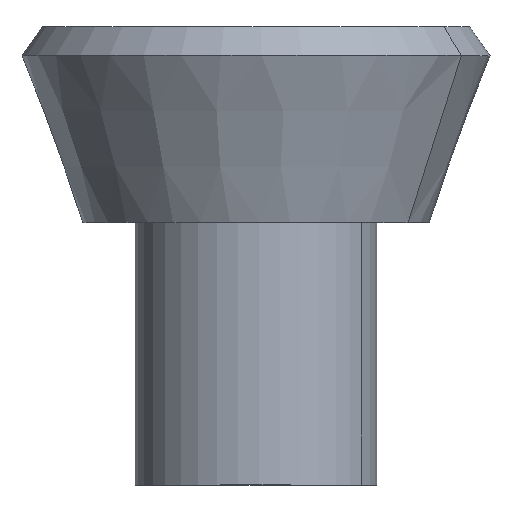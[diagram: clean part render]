
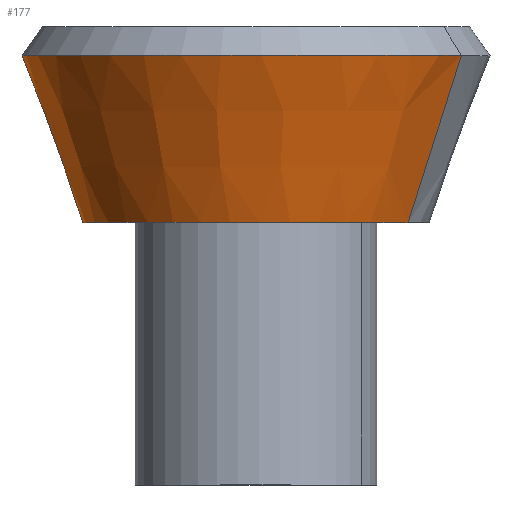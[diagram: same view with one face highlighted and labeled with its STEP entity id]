
A CAD part, top view. The second image highlights one B-rep face of the part: STEP entity #177.
In plain terms, the highlighted conical face has half-angle 20 degrees and reference radius 99 mm.
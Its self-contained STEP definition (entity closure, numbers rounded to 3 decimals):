
#114=CARTESIAN_POINT('Axis2P3D Location',(0.,0.,0.)) ;
#118=CARTESIAN_POINT('Vertex',(86.881,0.,47.463)) ;
#120=CARTESIAN_POINT('Vertex',(-86.881,0.,-47.463)) ;
#147=CARTESIAN_POINT('Axis2P3D Location',(0.,0.,0.)) ;
#152=CARTESIAN_POINT('Line Origine',(102.123,47.72,55.79)) ;
#156=CARTESIAN_POINT('Vertex',(117.366,95.44,64.117)) ;
#159=CARTESIAN_POINT('Axis2P3D Location',(0.,95.44,0.)) ;
#163=CARTESIAN_POINT('Vertex',(-117.366,95.44,-64.117)) ;
#166=CARTESIAN_POINT('Line Origine',(-102.123,47.72,-55.79)) ;
#115=DIRECTION('Axis2P3D Direction',(0.,-1.,0.)) ;
#148=DIRECTION('Axis2P3D Direction',(-0.,1.,-0.)) ;
#149=DIRECTION('Axis2P3D XDirection',(0.878,0.,0.479)) ;
#153=DIRECTION('Vector Direction',(0.3,0.94,0.164)) ;
#160=DIRECTION('Axis2P3D Direction',(0.,1.,-0.)) ;
#167=DIRECTION('Vector Direction',(-0.3,0.94,-0.164)) ;
#116=AXIS2_PLACEMENT_3D('Circle Axis2P3D',#114,#115,$) ;
#150=AXIS2_PLACEMENT_3D('Cone Axis2P3D',#147,#148,#149) ;
#161=AXIS2_PLACEMENT_3D('Circle Axis2P3D',#159,#160,$) ;
#172=ORIENTED_EDGE('',*,*,#122,.F.) ;
#173=ORIENTED_EDGE('',*,*,#158,.T.) ;
#174=ORIENTED_EDGE('',*,*,#165,.T.) ;
#175=ORIENTED_EDGE('',*,*,#170,.F.) ;
#154=VECTOR('Line Direction',#153,1.) ;
#168=VECTOR('Line Direction',#167,1.) ;
#177=ADVANCED_FACE('PartBody',(#176),#151,.T.) ;
#117=CIRCLE('generated circle',#116,99.) ;
#162=CIRCLE('generated circle',#161,133.737) ;
#151=CONICAL_SURFACE('Cone',#150,99.,0.349) ;
#122=EDGE_CURVE('',#119,#121,#117,.T.) ;
#158=EDGE_CURVE('',#119,#157,#155,.T.) ;
#165=EDGE_CURVE('',#157,#164,#162,.F.) ;
#170=EDGE_CURVE('',#121,#164,#169,.T.) ;
#171=EDGE_LOOP('',(#172,#173,#174,#175)) ;
#176=FACE_OUTER_BOUND('',#171,.T.) ;
#155=LINE('Line',#152,#154) ;
#169=LINE('Line',#166,#168) ;
#119=VERTEX_POINT('',#118) ;
#121=VERTEX_POINT('',#120) ;
#157=VERTEX_POINT('',#156) ;
#164=VERTEX_POINT('',#163) ;
